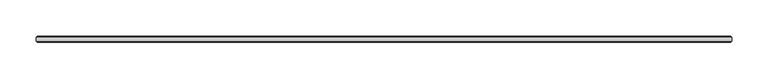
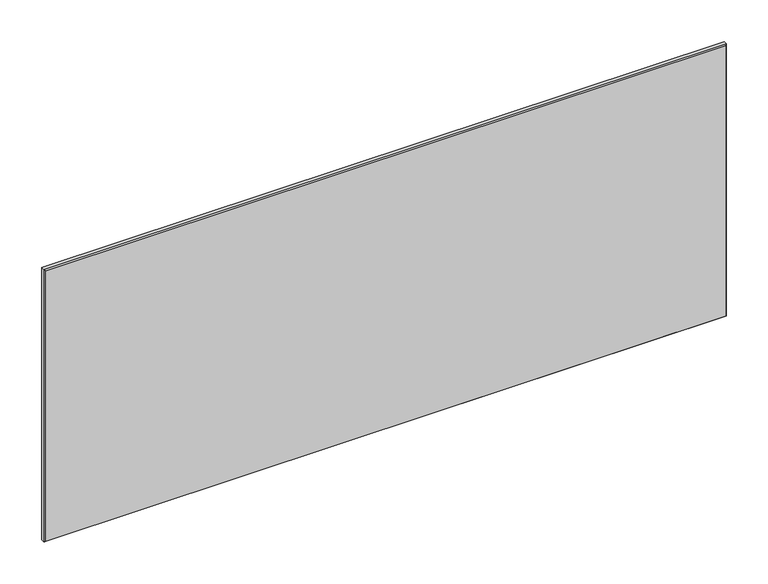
"""IFC4 building model written with IfcOpenShell, lengths in millimetres: plate geometry, 1-AMG-1-Панель одинарный витраж 8, 10 : Смещение 32 Толщина 8mm."""

from ifc_helpers import new_model, si_unit, origin, place, context, project, spatial, faceted_brep, source, transform, mapped, element, save


def plate_d47c8c15(model_context):
    return source(origin(), model_context, "Body", "Brep", [
        faceted_brep([(478.4988281, -29.5038347, 397.0023438), (-478.4988281, -29.5038347, 397.0023438), (-478.4988281, -34.4961653, 397.0023438), (478.4988281, -34.4961653, 397.0023438), (478.4988281, -34.5039422, -7.0), (-478.4988281, -34.5039422, -7.0), (-478.4988281, -29.5038347, -7.0), (478.4988281, -29.5038347, -7.0), (-476.9949934, -36.0, 395.4985091), (-476.9949934, -36.0, -5.5039422), (476.9949934, -36.0, -5.5039422), (476.9949934, -36.0, 395.4985091), (476.9949934, -28.0, 395.4985091), (476.9949934, -28.0, -5.4961653), (-476.9949934, -28.0, -5.4961653), (-476.9949934, -28.0, 395.4985091)], [[[0, 1, 2, 3]], [[4, 5, 6, 7]], [[8, 9, 10, 11]], [[1, 6, 5, 2]], [[12, 13, 14, 15]], [[3, 4, 7, 0]], [[3, 11, 10, 4]], [[7, 13, 12, 0]], [[5, 9, 8, 2]], [[1, 15, 14, 6]], [[0, 12, 15, 1]], [[2, 8, 11, 3]], [[6, 14, 13, 7]], [[4, 10, 9, 5]]]),
    ])


if __name__ == "__main__":
    model = new_model("IFC4")
    model_context = context("Model", 3, world=origin())
    ifc_project = project(units=[si_unit("LENGTHUNIT", "METRE", prefix="MILLI")], contexts=[model_context])
    site = spatial("IfcSite", under=ifc_project)
    building = spatial("IfcBuilding", under=site)
    placement = place(None, origin())
    plate_shape = plate_d47c8c15(model_context)
    element("IfcPlate", 1, ObjectType="1-AMG-1-Панель одинарный витраж 8, 10 : Смещение 32 Толщина 8mm", at=placement, inside=building, context=model_context, shape_type="MappedRepresentation", body=[
        mapped(plate_shape, transform((0.0, 0.0, 0.0), x_axis=(1.0, 0.0, 0.0), y_axis=(0.0, 1.0, 0.0), z_axis=(0.0, 0.0, 1.0))),
    ])
    save(model, "model.ifc")
